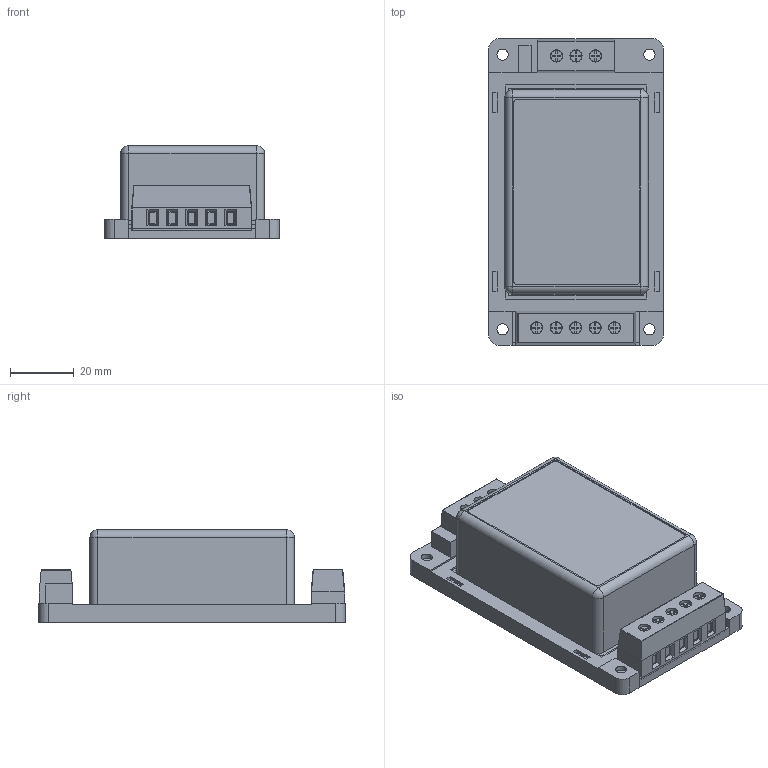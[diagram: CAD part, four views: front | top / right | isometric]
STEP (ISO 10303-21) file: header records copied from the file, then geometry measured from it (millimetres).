
FILE_DESCRIPTION((''),'2;1');
FILE_NAME('ATC-A2_ASM','2016-02-02T',('arch'),(''),'PRO/ENGINEER BY PARAMETRIC TECHNOLOGY CORPORATION, 2008380','PRO/ENGINEER BY PARAMETRIC TECHNOLOGY CORPORATION, 2008380','');
FILE_SCHEMA(('AUTOMOTIVE_DESIGN { 1 2 10303 214 0 1 1 1 }'));
Length unit declared in the file: millimetre
Products named in the file (27): PRODUCT_53866; PRODUCT_53849; PCB; EXTRUDE14; LPATTERN4_1_-44688; LPATTERN4_2_-44689; EXTRUDE5_2_-44693; PRODUCT_53764_ASM_ASM_ASM_ASM_A_ASM; EXTRUDE5_2_-44690; LPATTERN4_1_-44692; LPATTERN4_2_-44694; LPATTERN4_3_; LPATTERN4_4_; EXTRUDE7; PRODUCT_53747_ASM_ASM_ASM_ASM_A_ASM; ASM0001_ASM_ASM_ASM_ASM_ASM_ASM_ASM; MTC-A2_ASM_ASM_ASM_ASM_ASM_ASM__ASM; PRT0017; 96-A2_ASM_ASM_ASM_ASM_ASM_ASM_A_ASM; 96-A2_ASM_ASM_ASM_ASM_ASM_ASM_ASM; PRT0018; 96-A2_ASM_ASM_ASM_ASM_ASM_ASM; ATC-A2_ASM_ASM_ASM_ASM; ATC-A2_ASM_ASM_ASM; PRT0019; ATC-A2_ASM_ASM; ATC-A2_ASM
Assembly tree (28 placements, depth 11):
  ATC-A2_ASM
    ATC-A2_ASM_ASM
      ATC-A2_ASM_ASM_ASM
        ATC-A2_ASM_ASM_ASM_ASM
          96-A2_ASM_ASM_ASM_ASM_ASM_ASM
            96-A2_ASM_ASM_ASM_ASM_ASM_ASM_ASM
              96-A2_ASM_ASM_ASM_ASM_ASM_ASM_A_ASM
                MTC-A2_ASM_ASM_ASM_ASM_ASM_ASM__ASM
                  ASM0001_ASM_ASM_ASM_ASM_ASM_ASM_ASM
                PRT0017
            PRT0018
      PRT0019  x3
Bounding box: 54.6 x 95.9 x 29 mm (x, y, z)
Volume: 93742.9 mm3; surface area: 48164.6 mm2
Topology: 18 solids, 21 shells, 846 faces, 2202 edges, 1425 vertices
Faces by surface type: plane 545, cylinder 203, extrusion 54, torus 16, sphere 16, cone 12
Entity records: 32768 total; most frequent: CARTESIAN_POINT 5594, ORIENTED_EDGE 4232, DIRECTION 4155, EDGE_CURVE 2118, VECTOR 1459, LINE 1405, VERTEX_POINT 1377, AXIS2_PLACEMENT_3D 1348
